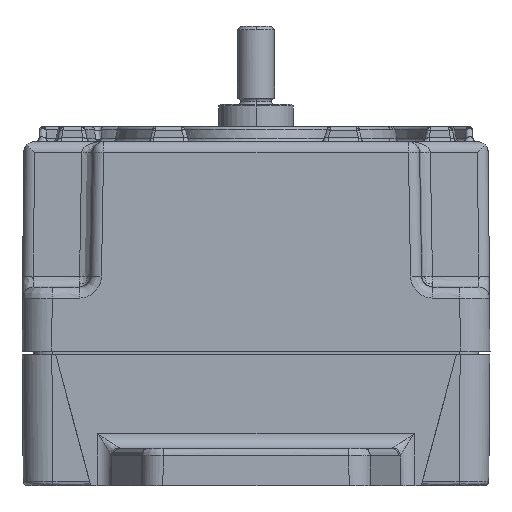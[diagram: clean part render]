
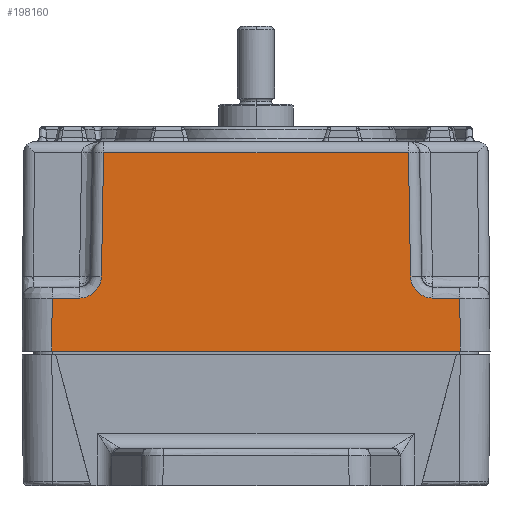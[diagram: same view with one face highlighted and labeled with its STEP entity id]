
A CAD part, left-side view. The second image highlights one B-rep face of the part: STEP entity #198160.
In plain terms, the highlighted planar face has unit normal (-1, 0, 0.009).
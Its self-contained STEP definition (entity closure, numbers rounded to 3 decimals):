
#2370=CARTESIAN_POINT('',(-50.005,27.506,
17.3));
#2380=VERTEX_POINT('',#2370);
#2410=CARTESIAN_POINT('',(-50.005,0.,
17.3));
#2420=DIRECTION('',(0.,-1.,0.));
#2430=VECTOR('',#2420,1.);
#2440=LINE('',#2410,#2430);
#2450=CARTESIAN_POINT('',(-50.005,-27.506,
17.3));
#2460=VERTEX_POINT('',#2450);
#2470=EDGE_CURVE('',#2380,#2460,#2440,.T.);
#133500=CARTESIAN_POINT('',(-49.943,23.77,
24.435));
#133510=VERTEX_POINT('',#133500);
#133540=CARTESIAN_POINT('',(-49.943,23.77,
24.435));
#133550=CARTESIAN_POINT('',(-49.943,23.854,
24.435));
#133560=CARTESIAN_POINT('',(-49.943,23.945,
24.433));
#133570=CARTESIAN_POINT('',(-49.943,24.556,
24.433));
#133580=CARTESIAN_POINT('',(-49.943,25.091,
24.433));
#133590=CARTESIAN_POINT('',(-49.943,26.732,
24.433));
#133600=CARTESIAN_POINT('',(-49.943,27.838,
24.433));
#133610=CARTESIAN_POINT('',(-49.943,28.943,
24.433));
#133620=B_SPLINE_CURVE_WITH_KNOTS('',3,(#133540,#133550,#133560,#133570,
#133580,#133590,#133600,#133610),.UNSPECIFIED.,.F.,.F.,(4,2,2,4),(0.,
0.227,1.833,5.15),.UNSPECIFIED.);
#133630=CARTESIAN_POINT('',(-49.943,27.443,
24.433));
#133640=VERTEX_POINT('',#133630);
#133650=EDGE_CURVE('',#133510,#133640,#133620,.T.);
#134900=CARTESIAN_POINT('',(-49.917,20.81,
27.407));
#134910=VERTEX_POINT('',#134900);
#134960=CARTESIAN_POINT('',(-49.917,20.81,
27.407));
#134970=CARTESIAN_POINT('',(-49.917,20.811,
27.398));
#134980=CARTESIAN_POINT('',(-49.917,20.811,
27.388));
#134990=CARTESIAN_POINT('',(-49.918,20.811,
27.369));
#135000=CARTESIAN_POINT('',(-49.918,20.811,
27.359));
#135010=CARTESIAN_POINT('',(-49.918,20.811,
27.344));
#135020=CARTESIAN_POINT('',(-49.918,20.812,
27.312));
#135030=CARTESIAN_POINT('',(-49.918,20.814,
27.262));
#135040=CARTESIAN_POINT('',(-49.919,20.817,
27.217));
#135050=CARTESIAN_POINT('',(-49.92,20.826,
27.113));
#135060=CARTESIAN_POINT('',(-49.921,20.836,
27.028));
#135070=CARTESIAN_POINT('',(-49.925,20.923,
26.497));
#135080=CARTESIAN_POINT('',(-49.93,21.129,
25.996));
#135090=CARTESIAN_POINT('',(-49.936,21.737,
25.208));
#135100=CARTESIAN_POINT('',(-49.939,22.136,
24.894));
#135110=CARTESIAN_POINT('',(-49.942,22.816,
24.592));
#135120=CARTESIAN_POINT('',(-49.942,23.068,
24.517));
#135130=CARTESIAN_POINT('',(-49.943,23.35,
24.468));
#135140=CARTESIAN_POINT('',(-49.943,23.405,
24.461));
#135150=CARTESIAN_POINT('',(-49.943,23.556,
24.445));
#135160=CARTESIAN_POINT('',(-49.943,23.667,
24.439));
#135170=CARTESIAN_POINT('',(-49.943,23.77,
24.435));
#135180=B_SPLINE_CURVE_WITH_KNOTS('',3,(#134960,#134970,#134980,#134990,
#135000,#135010,#135020,#135030,#135040,#135050,#135060,#135070,#135080,
#135090,#135100,#135110,#135120,#135130,#135140,#135150,#135160,#135170)
,.UNSPECIFIED.,.F.,.F.,(4,2,2,2,2,2,2,2,2,2,4),(0.,0.466,
0.931,1.088,1.275,1.532,
2.98,4.413,5.122,5.294,
5.596),.UNSPECIFIED.);
#135190=EDGE_CURVE('',#134910,#133510,#135180,.T.);
#136430=CARTESIAN_POINT('',(-49.772,20.52,
44.013));
#136440=VERTEX_POINT('',#136430);
#136470=CARTESIAN_POINT('',(-49.794,20.563,
41.513));
#136480=DIRECTION('',(-0.009,0.017,
-1.));
#136490=VECTOR('',#136480,1.);
#136500=LINE('',#136470,#136490);
#136510=EDGE_CURVE('',#136440,#134910,#136500,.T.);
#197240=CARTESIAN_POINT('',(-49.943,-27.443,
24.433));
#197250=VERTEX_POINT('',#197240);
#197280=CARTESIAN_POINT('',(-49.943,-23.77,
24.435));
#197290=CARTESIAN_POINT('',(-49.943,-23.854,
24.435));
#197300=CARTESIAN_POINT('',(-49.943,-23.945,
24.433));
#197310=CARTESIAN_POINT('',(-49.943,-24.556,
24.433));
#197320=CARTESIAN_POINT('',(-49.943,-25.091,
24.433));
#197330=CARTESIAN_POINT('',(-49.943,-26.732,
24.433));
#197340=CARTESIAN_POINT('',(-49.943,-27.838,
24.433));
#197350=CARTESIAN_POINT('',(-49.943,-28.943,
24.433));
#197360=B_SPLINE_CURVE_WITH_KNOTS('',3,(#197280,#197290,#197300,#197310,
#197320,#197330,#197340,#197350),.UNSPECIFIED.,.F.,.F.,(4,2,2,4),(0.,
0.227,1.833,5.15),.UNSPECIFIED.);
#197370=CARTESIAN_POINT('',(-49.943,-23.77,
24.435));
#197380=VERTEX_POINT('',#197370);
#197390=EDGE_CURVE('',#197380,#197250,#197360,.T.);
#197510=CARTESIAN_POINT('',(-50.,-7.697,
17.92));
#197520=DIRECTION('',(1.,0.,-0.009));
#197530=DIRECTION('',(0.,-1.,0.));
#197540=AXIS2_PLACEMENT_3D('',#197510,#197520,#197530);
#197550=PLANE('',#197540);
#197560=ORIENTED_EDGE('',*,*,#2470,.T.);
#197570=CARTESIAN_POINT('',(-49.947,27.447,
24.003));
#197580=DIRECTION('',(-0.009,0.009,
-1.));
#197590=VECTOR('',#197580,1.);
#197600=LINE('',#197570,#197590);
#197610=EDGE_CURVE('',#133640,#2380,#197600,.T.);
#197620=ORIENTED_EDGE('',*,*,#197610,.T.);
#197630=ORIENTED_EDGE('',*,*,#133650,.T.);
#197640=ORIENTED_EDGE('',*,*,#135190,.T.);
#197650=ORIENTED_EDGE('',*,*,#136510,.T.);
#197660=CARTESIAN_POINT('',(-49.772,-7.697,
44.013));
#197670=DIRECTION('',(0.,1.,0.));
#197680=VECTOR('',#197670,1.);
#197690=LINE('',#197660,#197680);
#197700=CARTESIAN_POINT('',(-49.772,-20.52,
44.013));
#197710=VERTEX_POINT('',#197700);
#197720=EDGE_CURVE('',#197710,#136440,#197690,.T.);
#197730=ORIENTED_EDGE('',*,*,#197720,.T.);
#197740=CARTESIAN_POINT('',(-49.794,-20.563,
41.513));
#197750=DIRECTION('',(-0.009,-0.017,
-1.));
#197760=VECTOR('',#197750,1.);
#197770=LINE('',#197740,#197760);
#197780=CARTESIAN_POINT('',(-49.917,-20.81,
27.407));
#197790=VERTEX_POINT('',#197780);
#197800=EDGE_CURVE('',#197710,#197790,#197770,.T.);
#197810=ORIENTED_EDGE('',*,*,#197800,.F.);
#197820=CARTESIAN_POINT('',(-49.917,-20.81,
27.407));
#197830=CARTESIAN_POINT('',(-49.917,-20.811,
27.398));
#197840=CARTESIAN_POINT('',(-49.917,-20.811,
27.388));
#197850=CARTESIAN_POINT('',(-49.918,-20.811,
27.369));
#197860=CARTESIAN_POINT('',(-49.918,-20.811,
27.359));
#197870=CARTESIAN_POINT('',(-49.918,-20.811,
27.344));
#197880=CARTESIAN_POINT('',(-49.918,-20.812,
27.312));
#197890=CARTESIAN_POINT('',(-49.918,-20.814,
27.262));
#197900=CARTESIAN_POINT('',(-49.919,-20.817,
27.217));
#197910=CARTESIAN_POINT('',(-49.92,-20.826,
27.113));
#197920=CARTESIAN_POINT('',(-49.921,-20.836,
27.028));
#197930=CARTESIAN_POINT('',(-49.925,-20.923,
26.497));
#197940=CARTESIAN_POINT('',(-49.93,-21.129,
25.996));
#197950=CARTESIAN_POINT('',(-49.936,-21.737,
25.208));
#197960=CARTESIAN_POINT('',(-49.939,-22.136,
24.894));
#197970=CARTESIAN_POINT('',(-49.942,-22.816,
24.592));
#197980=CARTESIAN_POINT('',(-49.942,-23.068,
24.517));
#197990=CARTESIAN_POINT('',(-49.943,-23.35,
24.468));
#198000=CARTESIAN_POINT('',(-49.943,-23.405,
24.461));
#198010=CARTESIAN_POINT('',(-49.943,-23.556,
24.445));
#198020=CARTESIAN_POINT('',(-49.943,-23.667,
24.439));
#198030=CARTESIAN_POINT('',(-49.943,-23.77,
24.435));
#198040=B_SPLINE_CURVE_WITH_KNOTS('',3,(#197820,#197830,#197840,#197850,
#197860,#197870,#197880,#197890,#197900,#197910,#197920,#197930,#197940,
#197950,#197960,#197970,#197980,#197990,#198000,#198010,#198020,#198030)
,.UNSPECIFIED.,.F.,.F.,(4,2,2,2,2,2,2,2,2,2,4),(0.,0.466,
0.931,1.088,1.275,1.532,
2.98,4.413,5.122,5.294,
5.596),.UNSPECIFIED.);
#198050=EDGE_CURVE('',#197790,#197380,#198040,.T.);
#198060=ORIENTED_EDGE('',*,*,#198050,.F.);
#198070=ORIENTED_EDGE('',*,*,#197390,.F.);
#198080=CARTESIAN_POINT('',(-49.947,-27.447,
24.003));
#198090=DIRECTION('',(-0.009,-0.009,
-1.));
#198100=VECTOR('',#198090,1.);
#198110=LINE('',#198080,#198100);
#198120=EDGE_CURVE('',#197250,#2460,#198110,.T.);
#198130=ORIENTED_EDGE('',*,*,#198120,.F.);
#198140=EDGE_LOOP('',(#198130,#198070,#198060,#197810,#197730,#197650,
#197640,#197630,#197620,#197560));
#198150=FACE_OUTER_BOUND('',#198140,.T.);
#198160=ADVANCED_FACE('',(#198150),#197550,.F.);
